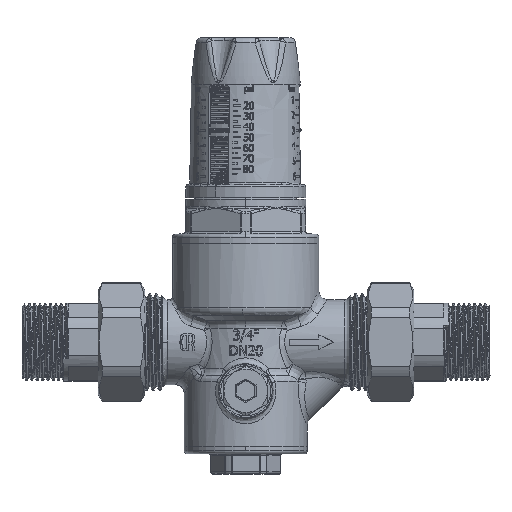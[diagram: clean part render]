
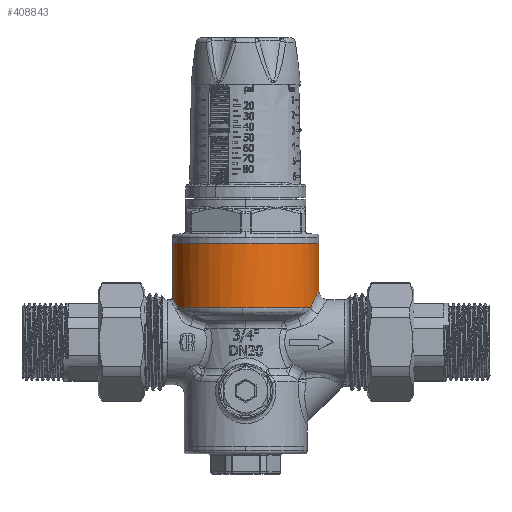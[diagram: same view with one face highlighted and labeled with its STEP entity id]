
A CAD part, top view. The second image highlights one B-rep face of the part: STEP entity #408843.
In plain terms, the highlighted cylindrical face has radius 25 mm (diameter 50 mm), a partial arc.
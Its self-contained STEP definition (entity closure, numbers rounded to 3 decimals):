
#4694 = VERTEX_POINT ( 'NONE', #437855 ) ;
#6629 = CYLINDRICAL_SURFACE ( 'NONE', #167000, 25. ) ;
#15525 = CIRCLE ( 'NONE', #194309, 25. ) ;
#15845 = DIRECTION ( 'NONE',  ( 0., -1., 0. ) ) ;
#25754 = DIRECTION ( 'NONE',  ( 0., -1., 0. ) ) ;
#33544 = DIRECTION ( 'NONE',  ( 0., 0., 1. ) ) ;
#37083 = CARTESIAN_POINT ( 'NONE',  ( 24.471, 16.561, 6.403 ) ) ;
#40367 = CARTESIAN_POINT ( 'NONE',  ( 0., 11.732, 0. ) ) ;
#49796 = CARTESIAN_POINT ( 'NONE',  ( -24.658, 14.908, 5.166 ) ) ;
#50079 = VERTEX_POINT ( 'NONE', #343368 ) ;
#51233 = ORIENTED_EDGE ( 'NONE', *, *, #443981, .F. ) ;
#52125 = CARTESIAN_POINT ( 'NONE',  ( -24.996, 15.496, 1.548 ) ) ;
#59530 = CARTESIAN_POINT ( 'NONE',  ( 0., 33.8, 0. ) ) ;
#62520 = AXIS2_PLACEMENT_3D ( 'NONE', #40367, #222276, #33544 ) ;
#65706 = EDGE_CURVE ( 'NONE', #184316, #261062, #316074, .T. ) ;
#76916 = ORIENTED_EDGE ( 'NONE', *, *, #65706, .T. ) ;
#86157 = EDGE_CURVE ( 'NONE', #4694, #261062, #352836, .T. ) ;
#93261 = ORIENTED_EDGE ( 'NONE', *, *, #86157, .F. ) ;
#94492 = DIRECTION ( 'NONE',  ( 0., -1., 0. ) ) ;
#102781 = CARTESIAN_POINT ( 'NONE',  ( -24.999, 15.499, 0. ) ) ;
#106486 = ORIENTED_EDGE ( 'NONE', *, *, #299127, .T. ) ;
#111581 = FACE_OUTER_BOUND ( 'NONE', #221217, .T. ) ;
#113437 = VERTEX_POINT ( 'NONE', #239875 ) ;
#113940 = CARTESIAN_POINT ( 'NONE',  ( 24.992, 17.49, 1.916 ) ) ;
#154796 = CARTESIAN_POINT ( 'NONE',  ( -23.654, 13.069, 8.251 ) ) ;
#163474 = CARTESIAN_POINT ( 'NONE',  ( -25., 33.8, 0. ) ) ;
#165621 = VERTEX_POINT ( 'NONE', #331143 ) ;
#167000 = AXIS2_PLACEMENT_3D ( 'NONE', #350785, #15845, #444968 ) ;
#170742 = DIRECTION ( 'NONE',  ( 0., 0., 1. ) ) ;
#183990 = CARTESIAN_POINT ( 'NONE',  ( 22.997, 13.74, 9.974 ) ) ;
#184316 = VERTEX_POINT ( 'NONE', #163474 ) ;
#188400 = EDGE_CURVE ( 'NONE', #50079, #165621, #375088, .T. ) ;
#192115 = CARTESIAN_POINT ( 'NONE',  ( -24.999, 15.499, 0. ) ) ;
#194309 = AXIS2_PLACEMENT_3D ( 'NONE', #59530, #94492, #234482 ) ;
#195138 = EDGE_CURVE ( 'NONE', #423895, #50079, #279862, .T. ) ;
#196933 = ORIENTED_EDGE ( 'NONE', *, *, #195138, .F. ) ;
#216629 = CARTESIAN_POINT ( 'NONE',  ( 24.999, 17.497, 0. ) ) ;
#221217 = EDGE_LOOP ( 'NONE', ( #106486, #76916, #93261, #51233, #376987, #433781, #196933 ) ) ;
#222276 = DIRECTION ( 'NONE',  ( 0., -1., 0. ) ) ;
#234482 = DIRECTION ( 'NONE',  ( 1., 0., 0. ) ) ;
#239296 = DIRECTION ( 'NONE',  ( 0., -1., 0. ) ) ;
#239875 = CARTESIAN_POINT ( 'NONE',  ( -1.025, 11.732, 24.979 ) ) ;
#261062 = VERTEX_POINT ( 'NONE', #102781 ) ;
#268772 = DIRECTION ( 'NONE',  ( 0., -1., 0. ) ) ;
#279862 = LINE ( 'NONE', #375609, #386991 ) ;
#281105 = VECTOR ( 'NONE', #239296, 1000. ) ;
#299127 = EDGE_CURVE ( 'NONE', #423895, #184316, #15525, .T. ) ;
#314478 = AXIS2_PLACEMENT_3D ( 'NONE', #378323, #268772, #170742 ) ;
#315806 = CIRCLE ( 'NONE', #62520, 25. ) ;
#316074 = LINE ( 'NONE', #449286, #281105 ) ;
#331143 = CARTESIAN_POINT ( 'NONE',  ( 22.149, 11.732, 11.594 ) ) ;
#338857 = CARTESIAN_POINT ( 'NONE',  ( -23.025, 11.732, 9.74 ) ) ;
#343368 = CARTESIAN_POINT ( 'NONE',  ( 24.999, 17.497, 0. ) ) ;
#350785 = CARTESIAN_POINT ( 'NONE',  ( 0., 22.4, 0. ) ) ;
#352836 = B_SPLINE_CURVE_WITH_KNOTS ( 'NONE', 3,
 ( #338857, #154796, #49796, #52125, #192115 ),
 .UNSPECIFIED., .F., .F.,
 ( 4, 1, 4 ),
 ( 0., 0.572, 1. ),
 .UNSPECIFIED. ) ;
#354274 = CARTESIAN_POINT ( 'NONE',  ( 22.149, 11.732, 11.594 ) ) ;
#375088 = B_SPLINE_CURVE_WITH_KNOTS ( 'NONE', 3,
 ( #216629, #113940, #37083, #183990, #354274 ),
 .UNSPECIFIED., .F., .F.,
 ( 4, 1, 4 ),
 ( 0.5, 0.714, 1. ),
 .UNSPECIFIED. ) ;
#375609 = CARTESIAN_POINT ( 'NONE',  ( 25., 22.4, 0. ) ) ;
#376987 = ORIENTED_EDGE ( 'NONE', *, *, #425038, .F. ) ;
#378323 = CARTESIAN_POINT ( 'NONE',  ( 0., 11.732, 0. ) ) ;
#386991 = VECTOR ( 'NONE', #25754, 1000. ) ;
#408843 = ADVANCED_FACE ( 'NONE', ( #111581 ), #6629, .T. ) ;
#423895 = VERTEX_POINT ( 'NONE', #460934 ) ;
#425038 = EDGE_CURVE ( 'NONE', #165621, #113437, #315806, .T. ) ;
#426409 = CIRCLE ( 'NONE', #314478, 25. ) ;
#433781 = ORIENTED_EDGE ( 'NONE', *, *, #188400, .F. ) ;
#437855 = CARTESIAN_POINT ( 'NONE',  ( -23.025, 11.732, 9.74 ) ) ;
#443981 = EDGE_CURVE ( 'NONE', #113437, #4694, #426409, .T. ) ;
#444968 = DIRECTION ( 'NONE',  ( 1., 0., 0. ) ) ;
#449286 = CARTESIAN_POINT ( 'NONE',  ( -25., 22.4, 0. ) ) ;
#460934 = CARTESIAN_POINT ( 'NONE',  ( 25., 33.8, 0. ) ) ;
